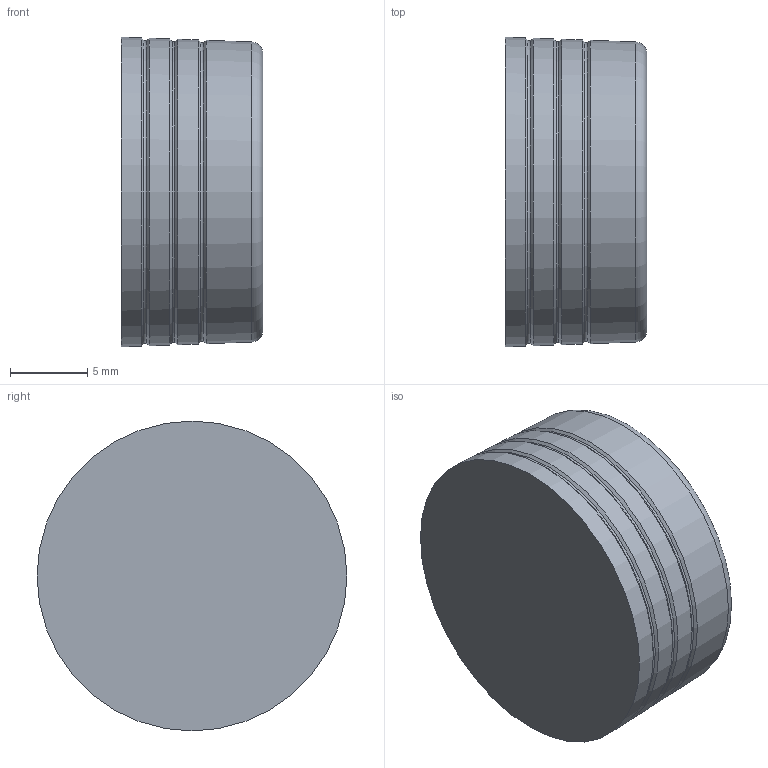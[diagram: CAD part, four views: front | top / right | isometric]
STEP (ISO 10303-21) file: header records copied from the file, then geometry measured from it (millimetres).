
FILE_DESCRIPTION(/* description */ ('LEE BETAPLUG, 20mm, SHORT, INDENT'),/* implementation_level */ '2;1');
FILE_NAME(/* name */ '\\ABSOLUTE\SmWork\Vernon\PLBA2004610S.stp',/* time_stamp */ '2021-03-23T15:14:40-04:00',/* author */ ('VernonJ'),/* organization */ (''),/* preprocessor_version */ 'ST-DEVELOPER v18',/* originating_system */ 'Autodesk Inventor 2020',/* authorisation */ '');
FILE_SCHEMA (('AUTOMOTIVE_DESIGN { 1 0 10303 214 3 1 1 }'));
Length unit declared in the file: millimetre
Products named in the file (1): PLBA2004610S
Bounding box: 9.19 x 20.07 x 20.07 mm (x, y, z)
Volume: 2791.7 mm3; surface area: 1185.2 mm2
Topology: 1 solids, 1 shells, 16 faces, 51 edges, 37 vertices
Faces by surface type: cone 10, torus 4, plane 2
Entity records: 649 total; most frequent: DIRECTION 126, CARTESIAN_POINT 105, ORIENTED_EDGE 102, AXIS2_PLACEMENT_3D 58, EDGE_CURVE 51, CIRCLE 41, VERTEX_POINT 37, FACE_OUTER_BOUND 16
